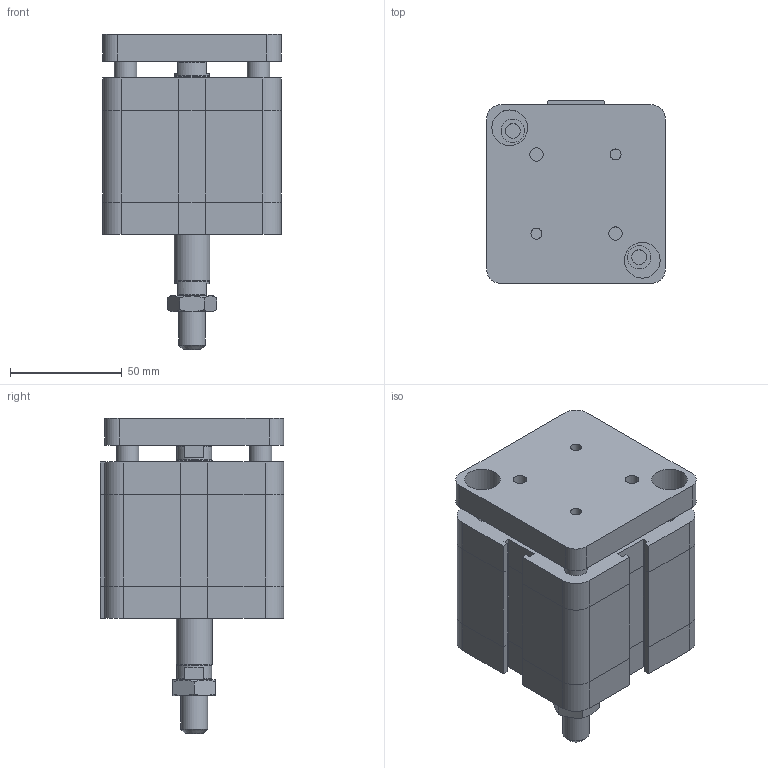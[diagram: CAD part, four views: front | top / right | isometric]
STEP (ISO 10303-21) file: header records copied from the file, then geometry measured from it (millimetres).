
FILE_DESCRIPTION((''),'2;1');
FILE_NAME('I:\Area Tecnica\Disegni\VARIE-3D\Componenti\EUROPE\15##_###_####_09_#\1561_63_0020_09_1.iam.stp','2009-04-20T15:38:59',(''),(''),'Autodesk Inventor 2009','Autodesk Inventor 2009','');
FILE_SCHEMA(('AUTOMOTIVE_DESIGN { 1 0 10303 214 1 1 1 1 }'));
Length unit declared in the file: millimetre
Products named in the file (4): 1561_63_0020_09_1; 1561_63_0020_08_1_C; 1561_63_0020_09_1_SA; DBFM12
Assembly tree (3 placements, depth 2):
  1561_63_0020_09_1
    1561_63_0020_08_1_C
    1561_63_0020_09_1_SA
    DBFM12
Bounding box: 80 x 82 x 141 mm (x, y, z)
Volume: 509912.7 mm3; surface area: 72960.2 mm2
Topology: 3 solids, 3 shells, 209 faces, 470 edges, 287 vertices
Faces by surface type: plane 120, bspline 45, cylinder 23, cone 21
Full cylindrical faces by diameter (mm): 10 x2, 10.8 x1, 12 x1, 15.6 x2, 16 x1
Entity records: 5963 total; most frequent: CARTESIAN_POINT 1453, DIRECTION 838, ORIENTED_EDGE 834, EDGE_CURVE 417, AXIS2_PLACEMENT_3D 282, EDGE_LOOP 282, VECTOR 274, LINE 274
